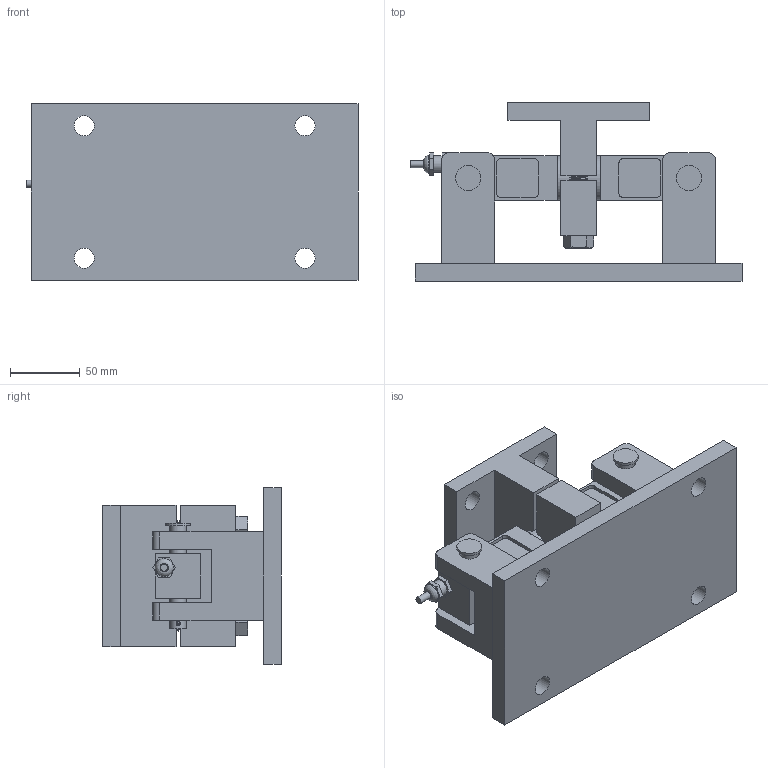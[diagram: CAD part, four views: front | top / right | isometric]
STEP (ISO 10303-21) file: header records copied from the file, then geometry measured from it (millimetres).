
FILE_DESCRIPTION(/* description */ (''),/* implementation_level */ '2;1');
FILE_NAME(/* name */ 'C:/Users/fardi/Dropbox/Work/Anyload/Load Cell Models/Product Catalog 3D/Weight Modules/102/102EHM2/102EHM2-(1-5)klb v9.step',/* time_stamp */ '2020-04-17T10:57:24-07:00',/* author */ (''),/* organization */ (''),/* preprocessor_version */ 'ST-DEVELOPER v18.1',/* originating_system */ 'Autodesk Translation Framework v9.2.0.1227',/* authorisation */ '');
FILE_SCHEMA (('AUTOMOTIVE_DESIGN { 1 0 10303 214 3 1 1 }'));
Length unit declared in the file: millimetre
Products named in the file (7): 102EHM2-(1-5)klb; Base; 102EH-(1-5)klb; Connector; Pins; Top; 91257A722
Assembly tree (7 placements, depth 3):
  102EHM2-(1-5)klb
    Base
    102EH-(1-5)klb
      Connector
    Pins
    Top
    91257A722  x2
Bounding box: 238.75 x 128.4 x 127 mm (x, y, z)
Volume: 1124625.2 mm3; surface area: 208888.1 mm2
Topology: 9 solids, 9 shells, 437 faces, 1138 edges, 746 vertices
Faces by surface type: cylinder 242, plane 165, cone 21, bspline 9
Full cylindrical faces by diameter (mm): 3 x2, 5.1 x1, 10 x1, 10.162 x30, 10.808 x42, 12 x4, 12.7 x80, 13 x1, 14.5 x14, 18 x2, 32.004 x1
Entity records: 23351 total; most frequent: CARTESIAN_POINT 14915, ORIENTED_EDGE 1828, DIRECTION 1521, EDGE_CURVE 914, VERTEX_POINT 599, AXIS2_PLACEMENT_3D 523, LINE 475, VECTOR 475
